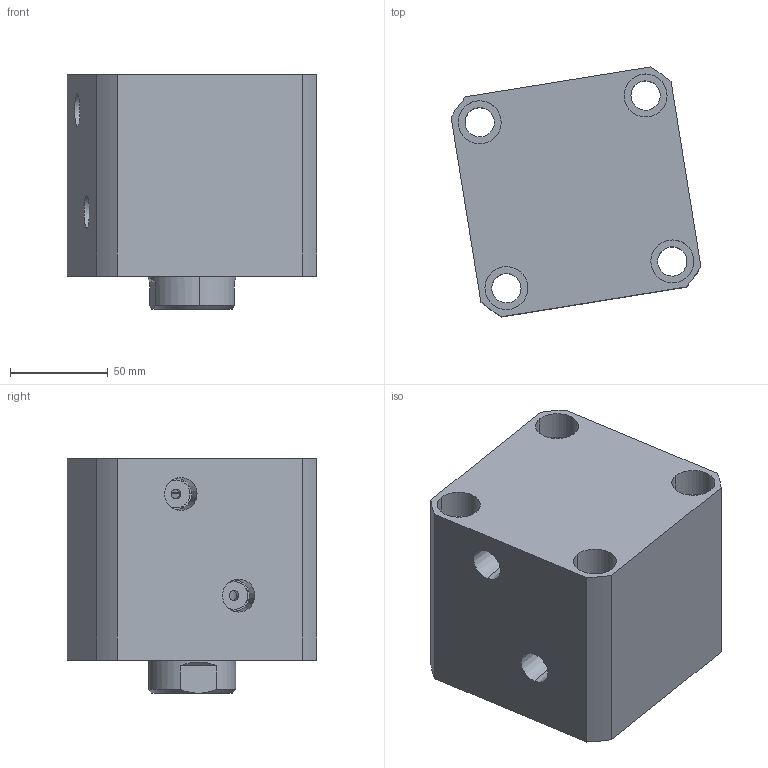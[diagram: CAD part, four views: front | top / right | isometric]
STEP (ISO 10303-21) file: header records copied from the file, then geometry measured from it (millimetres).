
FILE_DESCRIPTION (( 'STEP AP214' ), '1' );
FILE_NAME ('chtb-sd80x25n_asm.STEP', '2018-05-26T04:19:27', ( 'Windows' ), ( 'Microsoft' ), 'SwSTEP 2.0', 'SolidWorks 2015', '' );
FILE_SCHEMA (( 'AUTOMOTIVE_DESIGN' ));
Length unit declared in the file: millimetre
Products named in the file (4): CHTB-SD80X25NHSG; CHTB-SD80X25NBT; CHTB-SD80QG; chtb-sd80x25n_asm
Assembly tree (3 placements, depth 2):
  chtb-sd80x25n_asm
    CHTB-SD80QG
    CHTB-SD80X25NBT
    CHTB-SD80X25NHSG
Bounding box: 127.82 x 127.82 x 120 mm (x, y, z)
Volume: 1122836.3 mm3; surface area: 175265.6 mm2
Topology: 3 solids, 3 shells, 192 faces, 510 edges, 341 vertices
Faces by surface type: cylinder 103, plane 37, cone 20, torus 18, bspline 14
Entity records: 15144 total; most frequent: CARTESIAN_POINT 10435, ORIENTED_EDGE 1008, DIRECTION 889, EDGE_CURVE 504, AXIS2_PLACEMENT_3D 374, VERTEX_POINT 341, EDGE_LOOP 229, ADVANCED_FACE 192
